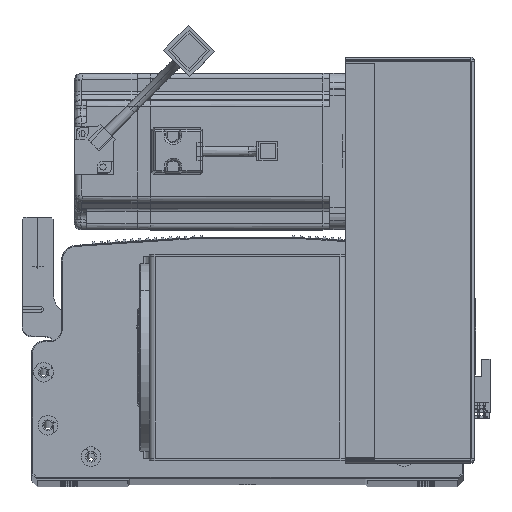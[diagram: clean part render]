
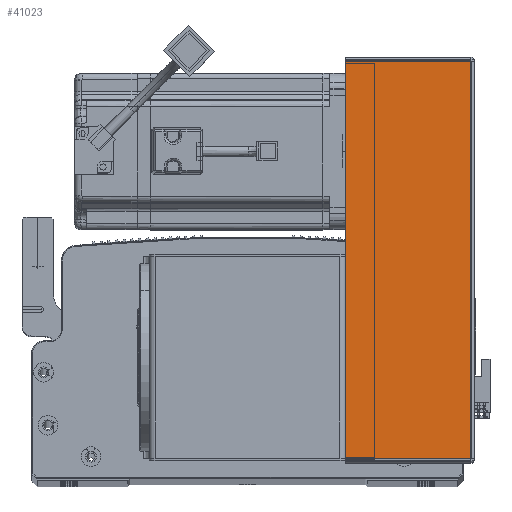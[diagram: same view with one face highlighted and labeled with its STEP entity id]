
A CAD part, top view. The second image highlights one B-rep face of the part: STEP entity #41023.
In plain terms, the highlighted planar face has unit normal (0, 0, 1) as drawn and (0, -1, 0) by its records, which use the part's own axes.
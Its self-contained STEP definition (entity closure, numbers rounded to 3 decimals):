
#6391 = VECTOR ( 'NONE', #55368, 1000. ) ;
#6869 = CARTESIAN_POINT ( 'NONE',  ( 0.737, -1.5, -203.293 ) ) ;
#8130 = CARTESIAN_POINT ( 'NONE',  ( 0., -1.5, -203.293 ) ) ;
#12872 = CARTESIAN_POINT ( 'NONE',  ( 0., -1.5, -0.707 ) ) ;
#17647 = EDGE_CURVE ( 'NONE', #43630, #64433, #81593, .T. ) ;
#18643 = EDGE_CURVE ( 'NONE', #33597, #80733, #41748, .T. ) ;
#19089 = VECTOR ( 'NONE', #68521, 1000. ) ;
#19535 = DIRECTION ( 'NONE',  ( 0., 1., 0. ) ) ;
#19974 = DIRECTION ( 'NONE',  ( 1., 0., 0. ) ) ;
#22389 = LINE ( 'NONE', #61096, #19089 ) ;
#30289 = ORIENTED_EDGE ( 'NONE', *, *, #17647, .T. ) ;
#33597 = VERTEX_POINT ( 'NONE', #79122 ) ;
#40988 = ORIENTED_EDGE ( 'NONE', *, *, #74513, .T. ) ;
#41023 = ADVANCED_FACE ( 'NONE', ( #66875 ), #49181, .F. ) ;
#41748 = LINE ( 'NONE', #12872, #89111 ) ;
#43084 = ORIENTED_EDGE ( 'NONE', *, *, #48585, .F. ) ;
#43630 = VERTEX_POINT ( 'NONE', #6869 ) ;
#45942 = CARTESIAN_POINT ( 'NONE',  ( 64.5, -1.5, -0.707 ) ) ;
#48585 = EDGE_CURVE ( 'NONE', #43630, #33597, #72650, .T. ) ;
#49181 = PLANE ( 'NONE',  #63727 ) ;
#50137 = DIRECTION ( 'NONE',  ( 1., 0., 0. ) ) ;
#55131 = VECTOR ( 'NONE', #50137, 1000. ) ;
#55368 = DIRECTION ( 'NONE',  ( 0., 0., 1. ) ) ;
#58636 = ORIENTED_EDGE ( 'NONE', *, *, #18643, .F. ) ;
#61096 = CARTESIAN_POINT ( 'NONE',  ( 64.5, -1.5, 0. ) ) ;
#61808 = CARTESIAN_POINT ( 'NONE',  ( 0., -1.5, 0. ) ) ;
#63727 = AXIS2_PLACEMENT_3D ( 'NONE', #61808, #19535, #78126 ) ;
#64433 = VERTEX_POINT ( 'NONE', #78913 ) ;
#66875 = FACE_OUTER_BOUND ( 'NONE', #89697, .T. ) ;
#68521 = DIRECTION ( 'NONE',  ( 0., 0., 1. ) ) ;
#72650 = LINE ( 'NONE', #83704, #6391 ) ;
#74513 = EDGE_CURVE ( 'NONE', #64433, #80733, #22389, .T. ) ;
#78126 = DIRECTION ( 'NONE',  ( -1., 0., 0. ) ) ;
#78913 = CARTESIAN_POINT ( 'NONE',  ( 64.5, -1.5, -203.293 ) ) ;
#79122 = CARTESIAN_POINT ( 'NONE',  ( 0.737, -1.5, -0.707 ) ) ;
#80733 = VERTEX_POINT ( 'NONE', #45942 ) ;
#81593 = LINE ( 'NONE', #8130, #55131 ) ;
#83704 = CARTESIAN_POINT ( 'NONE',  ( 0.737, -1.5, 0. ) ) ;
#89111 = VECTOR ( 'NONE', #19974, 1000. ) ;
#89697 = EDGE_LOOP ( 'NONE', ( #43084, #30289, #40988, #58636 ) ) ;
